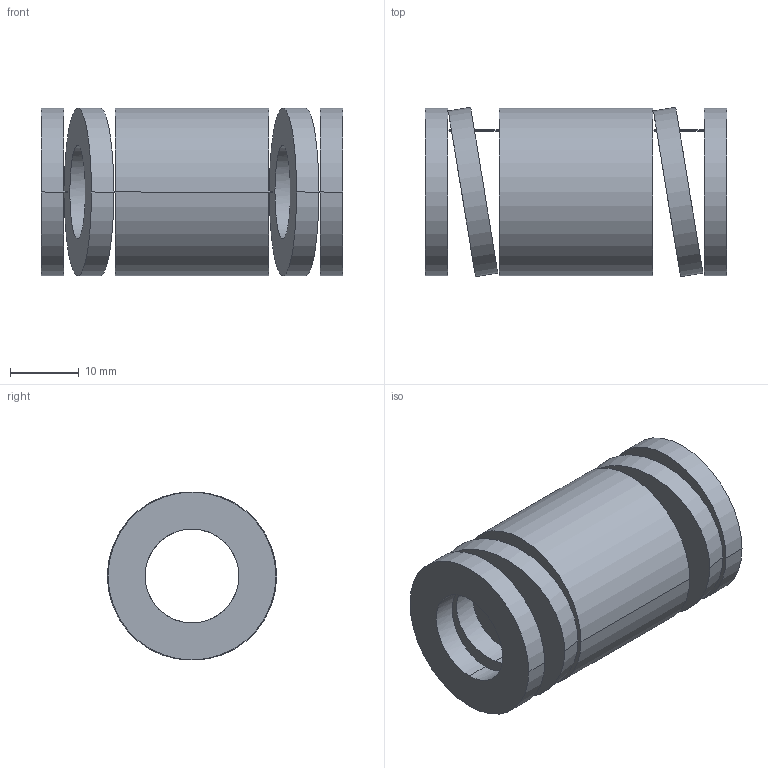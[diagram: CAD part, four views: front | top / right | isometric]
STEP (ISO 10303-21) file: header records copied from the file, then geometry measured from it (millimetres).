
FILE_DESCRIPTION(('CATIA V5 STEP Exchange'),'2;1');
FILE_NAME('C:\Users\Utente\Desktop\IO LAVORO\3D X SITO CF\X SITO\3D files 392B\392-B25-044.stp','2021-08-13T07:50:20+00:00',('none'),('none'),'CATIA Version 5 Release 20 GA (IN-10)','CATIA V5 STEP AP203','none');
FILE_SCHEMA(('CONFIG_CONTROL_DESIGN'));
Length unit declared in the file: millimetre
Products named in the file (1): 392-B25-044
Bounding box: 44 x 24.71 x 24.5 mm (x, y, z)
Volume: 11535.5 mm3; surface area: 7518.2 mm2
Topology: 1 solids, 1 shells, 38 faces, 92 edges, 64 vertices
Faces by surface type: cylinder 28, plane 10
Entity records: 1578 total; most frequent: CARTESIAN_POINT 691, ORIENTED_EDGE 184, DIRECTION 128, EDGE_CURVE 92, VERTEX_POINT 64, AXIS2_PLACEMENT_3D 63, EDGE_LOOP 56, B_SPLINE_CURVE_WITH_KNOTS 40
